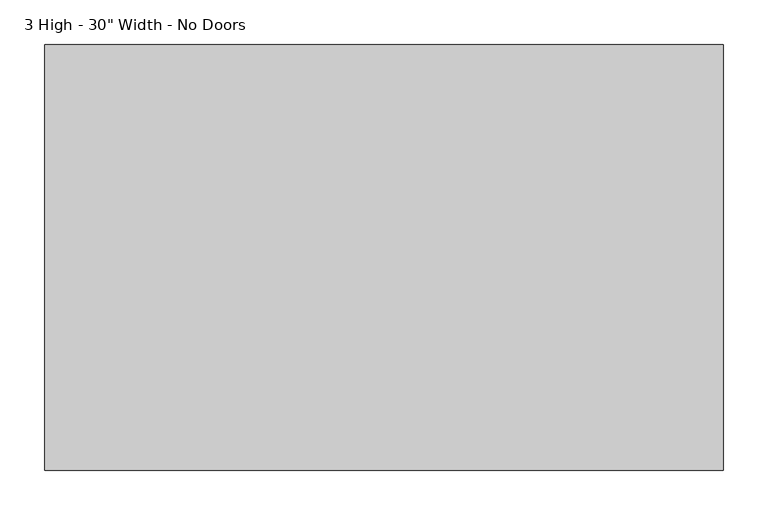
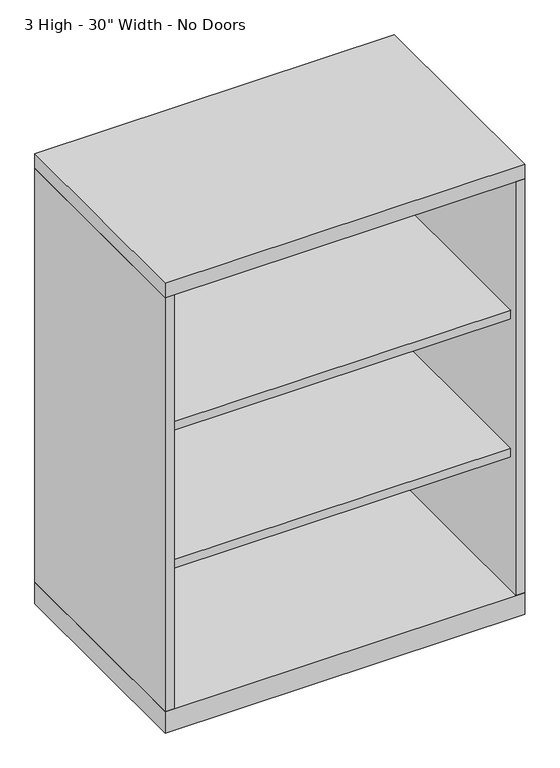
"""IFC4 building model written with IfcOpenShell, lengths in millimetres: furniture geometry."""

from ifc_helpers import new_model, si_unit, frame, origin, origin_with_axes, place, context, project, spatial, polyline, outline, extrude, source, transform, mapped, element, save


def furniture_46f5773e(model_context):
    return source(origin(), model_context, "Body", "SweptSolid", [
        extrude(outline(polyline([(360.3625, -19.05), (360.3625, -457.2), (-360.3625, -457.2), (-360.3625, -19.05), (360.3625, -19.05)])), frame((0.0, 0.0, 654.05), z_axis=(0.0, 0.0, 1.0), x_axis=(1.0, 0.0, 0.0)), (0.0, 0.0, 1.0), 19.05),
        extrude(outline(polyline([(360.3625, -19.05), (360.3625, -457.2), (-360.3625, -457.2), (-360.3625, -19.05), (360.3625, -19.05)])), frame((0.0, 0.0, 346.075), z_axis=(0.0, 0.0, 1.0), x_axis=(1.0, 0.0, 0.0)), (0.0, 0.0, 1.0), 19.05),
        extrude(outline(polyline([(379.4125, 0.0), (379.4125, -476.25), (-379.4125, -476.25), (-379.4125, 0.0), (379.4125, 0.0)])), origin_with_axes(), (0.0, 0.0, 1.0), 47.625),
        extrude(outline(polyline([(379.4125, 0.0), (379.4125, -476.25), (-379.4125, -476.25), (-379.4125, 0.0), (379.4125, 0.0)])), frame((0.0, 0.0, 971.55), z_axis=(0.0, 0.0, 1.0), x_axis=(1.0, 0.0, 0.0)), (0.0, 0.0, 1.0), 31.75),
        extrude(outline(polyline([(379.4125, 0.0), (379.4125, -476.25), (360.3625, -476.25), (360.3625, -19.05), (-360.3625, -19.05), (-360.3625, -476.25), (-379.4125, -476.25), (-379.4125, 0.0), (379.4125, 0.0)])), frame((0.0, 0.0, 47.625), z_axis=(0.0, 0.0, 1.0), x_axis=(1.0, 0.0, 0.0)), (0.0, 0.0, 1.0), 923.925),
    ])


if __name__ == "__main__":
    model = new_model("IFC4")
    model_context = context("Model", 3, world=origin())
    ifc_project = project(units=[si_unit("LENGTHUNIT", "METRE", prefix="MILLI")], contexts=[model_context])
    site = spatial("IfcSite", under=ifc_project)
    building = spatial("IfcBuilding", under=site)
    placement = place(None, origin())
    furniture_shape = furniture_46f5773e(model_context)
    element("IfcFurniture", 1, ObjectType="Haworth_XSeries-Storage_Cabinet : 3 High - 30\" Width - No Doors", at=placement, inside=building, context=model_context, shape_type="MappedRepresentation", body=[
        mapped(furniture_shape, transform((0.0, 0.0, 0.0), x_axis=(1.0, 0.0, 0.0), y_axis=(0.0, 1.0, 0.0), z_axis=(0.0, 0.0, 1.0))),
    ])
    save(model, "model.ifc")
